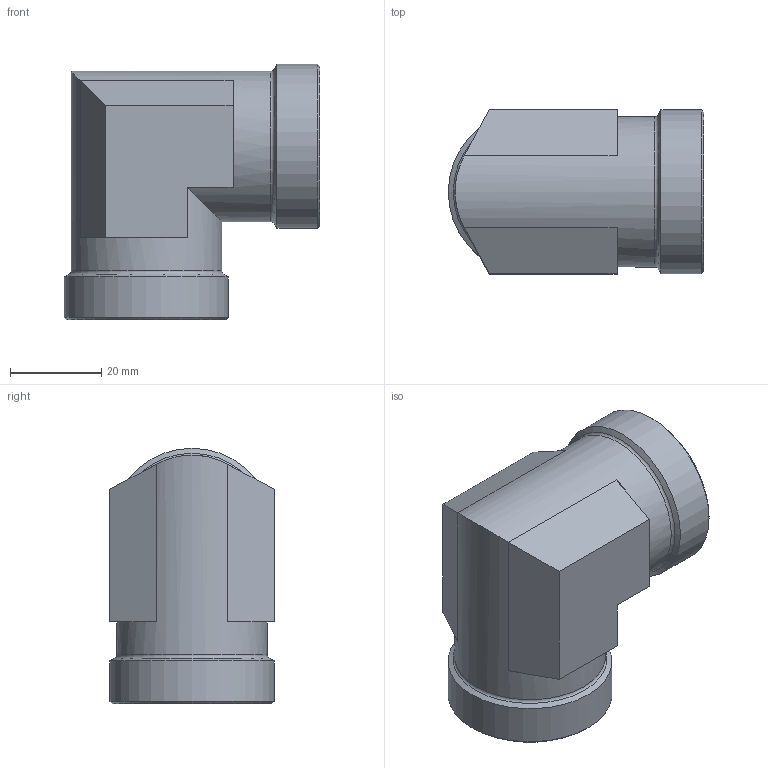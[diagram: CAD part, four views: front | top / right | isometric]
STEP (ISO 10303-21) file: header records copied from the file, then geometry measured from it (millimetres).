
FILE_DESCRIPTION( ( 'Unknown' ), '1' );
FILE_NAME( 'C:/Users/p.nanko/Desktop/3D SR/XW28L.stp', 'Unknown', ( 'Peter Nanko' ), ( 'Armaturen Arndt' ), 'PSStep 14.0', 'Solid Edge ST4', ' ' );
FILE_SCHEMA( ( 'AUTOMOTIVE_DESIGN { 1 0 10303 214 1 1 1 1 }' ) );
Length unit declared in the file: millimetre
Products named in the file (1): 1
Bounding box: 56 x 36 x 56 mm (x, y, z)
Volume: 33489.8 mm3; surface area: 16185.2 mm2
Topology: 1 solids, 1 shells, 40 faces, 85 edges, 49 vertices
Faces by surface type: plane 20, cylinder 12, cone 6, torus 2
Full cylindrical faces by diameter (mm): 24 x2, 28 x2, 33 x2, 36 x2
Entity records: 1302 total; most frequent: DIRECTION 184, CARTESIAN_POINT 155, ORIENTED_EDGE 134, AXIS2_PLACEMENT_3D 76, EDGE_CURVE 67, EDGE_LOOP 60, FACE_OUTER_BOUND 50, VERTEX_POINT 47
